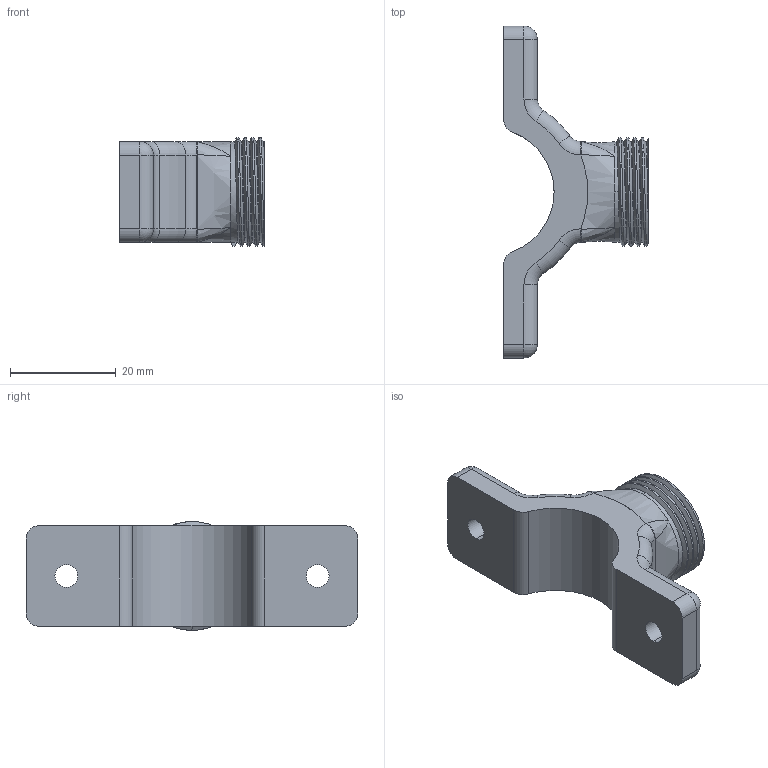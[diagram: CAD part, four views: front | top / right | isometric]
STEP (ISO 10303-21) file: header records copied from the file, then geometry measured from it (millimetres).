
FILE_DESCRIPTION (( 'STEP AP214' ), '1' );
FILE_NAME ('Socket.STEP', '2022-07-18T02:00:03', ( '' ), ( '' ), 'SwSTEP 2.0', 'SolidWorks 2021', '' );
FILE_SCHEMA (( 'AUTOMOTIVE_DESIGN' ));
Length unit declared in the file: inch
Products named in the file (1): Socket
Bounding box: 27.3 x 62.73 x 20.57 mm (x, y, z)
Volume: 11437.7 mm3; surface area: 4812.6 mm2
Topology: 1 solids, 1 shells, 82 faces, 207 edges, 120 vertices
Faces by surface type: cylinder 41, plane 12, torus 12, bspline 11, sphere 6
Entity records: 3508 total; most frequent: CARTESIAN_POINT 1630, ORIENTED_EDGE 398, DIRECTION 381, EDGE_CURVE 199, AXIS2_PLACEMENT_3D 156, VERTEX_POINT 120, EDGE_LOOP 87, CIRCLE 84
